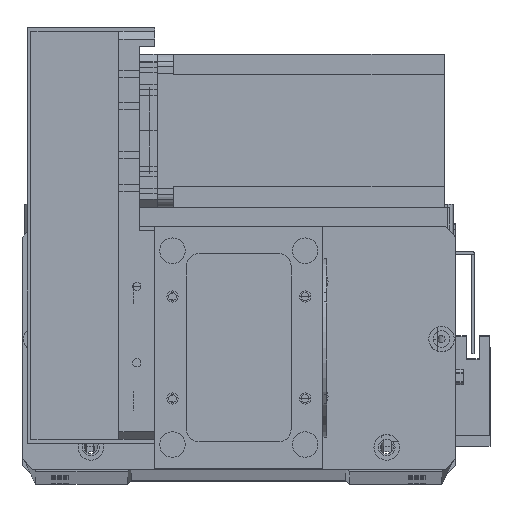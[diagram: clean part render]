
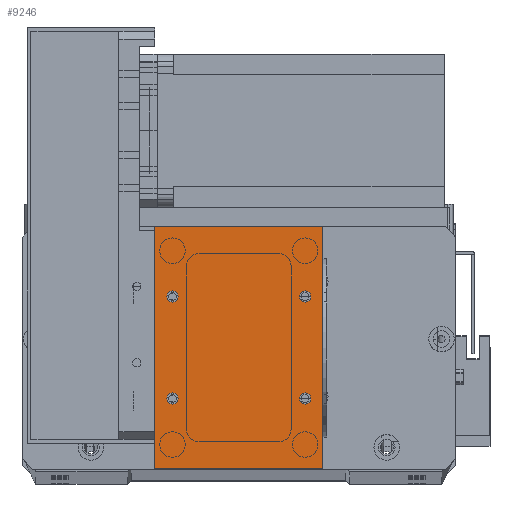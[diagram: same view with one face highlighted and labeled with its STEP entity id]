
A CAD part, top view. The second image highlights one B-rep face of the part: STEP entity #9246.
In plain terms, the highlighted planar face has unit normal (0, 0, 1).
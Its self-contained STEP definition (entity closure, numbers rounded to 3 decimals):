
#257 = EDGE_LOOP ( 'NONE', ( #11207, #22739 ) ) ;
#487 = AXIS2_PLACEMENT_3D ( 'NONE', #15395, #34013, #18059 ) ;
#558 = LINE ( 'NONE', #22063, #28063 ) ;
#1348 = CIRCLE ( 'NONE', #12371, 2.25 ) ;
#1617 = AXIS2_PLACEMENT_3D ( 'NONE', #7700, #26306, #10386 ) ;
#2112 = DIRECTION ( 'NONE',  ( 0., 0., 1. ) ) ;
#3414 = CARTESIAN_POINT ( 'NONE',  ( 0., 0., 2. ) ) ;
#3576 = DIRECTION ( 'NONE',  ( 0., 1., 0. ) ) ;
#3907 = CARTESIAN_POINT ( 'NONE',  ( 59., 67.5, 2. ) ) ;
#4536 = EDGE_CURVE ( 'NONE', #24692, #22620, #24967, .T. ) ;
#4652 = CARTESIAN_POINT ( 'NONE',  ( 4.75, 27.5, 2. ) ) ;
#4894 = DIRECTION ( 'NONE',  ( -1., 0., 0. ) ) ;
#4967 = CARTESIAN_POINT ( 'NONE',  ( 61.25, 67.5, 2. ) ) ;
#5171 = CARTESIAN_POINT ( 'NONE',  ( 0., 0., 2. ) ) ;
#5382 = CIRCLE ( 'NONE', #12772, 2.25 ) ;
#5541 = ORIENTED_EDGE ( 'NONE', *, *, #19989, .T. ) ;
#6228 = FACE_BOUND ( 'NONE', #26638, .T. ) ;
#6588 = DIRECTION ( 'NONE',  ( 1., 0., 0. ) ) ;
#7357 = CARTESIAN_POINT ( 'NONE',  ( 61.25, 27.5, 2. ) ) ;
#7700 = CARTESIAN_POINT ( 'NONE',  ( 59., 27.5, 2. ) ) ;
#7915 = EDGE_CURVE ( 'NONE', #8236, #28253, #12591, .T. ) ;
#7941 = ORIENTED_EDGE ( 'NONE', *, *, #4536, .F. ) ;
#8032 = EDGE_CURVE ( 'NONE', #22620, #24692, #1348, .T. ) ;
#8186 = AXIS2_PLACEMENT_3D ( 'NONE', #9431, #28036, #12090 ) ;
#8236 = VERTEX_POINT ( 'NONE', #16264 ) ;
#8341 = CARTESIAN_POINT ( 'NONE',  ( 7., 67.5, 2. ) ) ;
#8720 = DIRECTION ( 'NONE',  ( 0., 0., 1. ) ) ;
#8765 = DIRECTION ( 'NONE',  ( 0., -1., 0. ) ) ;
#9246 = ADVANCED_FACE ( 'NONE', ( #20410, #27482, #13317, #6228, #14985 ), #23779, .F. ) ;
#9431 = CARTESIAN_POINT ( 'NONE',  ( 59., 27.5, 2. ) ) ;
#10252 = VECTOR ( 'NONE', #8765, 1000. ) ;
#10386 = DIRECTION ( 'NONE',  ( 1., 0., 0. ) ) ;
#10537 = DIRECTION ( 'NONE',  ( -1., 0., 0. ) ) ;
#11024 = DIRECTION ( 'NONE',  ( 1., 0., 0. ) ) ;
#11207 = ORIENTED_EDGE ( 'NONE', *, *, #14830, .F. ) ;
#11563 = EDGE_LOOP ( 'NONE', ( #7941, #24251 ) ) ;
#11627 = DIRECTION ( 'NONE',  ( 0., 0., 1. ) ) ;
#12090 = DIRECTION ( 'NONE',  ( 1., 0., 0. ) ) ;
#12371 = AXIS2_PLACEMENT_3D ( 'NONE', #18033, #2112, #20731 ) ;
#12425 = AXIS2_PLACEMENT_3D ( 'NONE', #8341, #26966, #11024 ) ;
#12571 = EDGE_CURVE ( 'NONE', #19329, #8236, #25232, .T. ) ;
#12591 = LINE ( 'NONE', #14557, #32974 ) ;
#12772 = AXIS2_PLACEMENT_3D ( 'NONE', #27561, #11627, #30241 ) ;
#13191 = VECTOR ( 'NONE', #4894, 1000. ) ;
#13317 = FACE_BOUND ( 'NONE', #257, .T. ) ;
#14003 = CARTESIAN_POINT ( 'NONE',  ( 0., 95., 2. ) ) ;
#14173 = CIRCLE ( 'NONE', #487, 2.25 ) ;
#14557 = CARTESIAN_POINT ( 'NONE',  ( 0., 0., 2. ) ) ;
#14740 = ORIENTED_EDGE ( 'NONE', *, *, #31172, .F. ) ;
#14777 = VERTEX_POINT ( 'NONE', #4652 ) ;
#14830 = EDGE_CURVE ( 'NONE', #18411, #34318, #17213, .T. ) ;
#14985 = FACE_OUTER_BOUND ( 'NONE', #30142, .T. ) ;
#15395 = CARTESIAN_POINT ( 'NONE',  ( 7., 27.5, 2. ) ) ;
#15424 = VERTEX_POINT ( 'NONE', #33023 ) ;
#15470 = CARTESIAN_POINT ( 'NONE',  ( 0., 95., 2. ) ) ;
#16173 = CARTESIAN_POINT ( 'NONE',  ( 4.75, 67.5, 2. ) ) ;
#16264 = CARTESIAN_POINT ( 'NONE',  ( 0., 0., 2. ) ) ;
#16955 = ORIENTED_EDGE ( 'NONE', *, *, #7915, .T. ) ;
#17210 = VERTEX_POINT ( 'NONE', #17318 ) ;
#17213 = CIRCLE ( 'NONE', #1617, 2.25 ) ;
#17318 = CARTESIAN_POINT ( 'NONE',  ( 9.25, 27.5, 2. ) ) ;
#17473 = DIRECTION ( 'NONE',  ( 1., 0., 0. ) ) ;
#17769 = CIRCLE ( 'NONE', #31223, 2.25 ) ;
#17878 = VERTEX_POINT ( 'NONE', #33574 ) ;
#18033 = CARTESIAN_POINT ( 'NONE',  ( 7., 67.5, 2. ) ) ;
#18059 = DIRECTION ( 'NONE',  ( 1., 0., 0. ) ) ;
#18075 = ORIENTED_EDGE ( 'NONE', *, *, #30186, .F. ) ;
#18120 = CARTESIAN_POINT ( 'NONE',  ( 56.75, 27.5, 2. ) ) ;
#18411 = VERTEX_POINT ( 'NONE', #7357 ) ;
#18887 = EDGE_CURVE ( 'NONE', #34318, #18411, #24507, .T. ) ;
#19329 = VERTEX_POINT ( 'NONE', #14003 ) ;
#19989 = EDGE_CURVE ( 'NONE', #15424, #19329, #20290, .T. ) ;
#20269 = EDGE_CURVE ( 'NONE', #14777, #17210, #17769, .T. ) ;
#20290 = LINE ( 'NONE', #15470, #13191 ) ;
#20410 = FACE_BOUND ( 'NONE', #11563, .T. ) ;
#20731 = DIRECTION ( 'NONE',  ( 1., 0., 0. ) ) ;
#21700 = ORIENTED_EDGE ( 'NONE', *, *, #23231, .T. ) ;
#22063 = CARTESIAN_POINT ( 'NONE',  ( 66., 0., 2. ) ) ;
#22449 = CARTESIAN_POINT ( 'NONE',  ( 66., 0., 2. ) ) ;
#22519 = DIRECTION ( 'NONE',  ( 0., 0., 1. ) ) ;
#22620 = VERTEX_POINT ( 'NONE', #16173 ) ;
#22739 = ORIENTED_EDGE ( 'NONE', *, *, #18887, .F. ) ;
#23231 = EDGE_CURVE ( 'NONE', #28253, #15424, #558, .T. ) ;
#23779 = PLANE ( 'NONE',  #25096 ) ;
#23964 = AXIS2_PLACEMENT_3D ( 'NONE', #3907, #22519, #6588 ) ;
#24251 = ORIENTED_EDGE ( 'NONE', *, *, #8032, .F. ) ;
#24507 = CIRCLE ( 'NONE', #8186, 2.25 ) ;
#24652 = CARTESIAN_POINT ( 'NONE',  ( 7., 27.5, 2. ) ) ;
#24692 = VERTEX_POINT ( 'NONE', #28172 ) ;
#24835 = VERTEX_POINT ( 'NONE', #4967 ) ;
#24967 = CIRCLE ( 'NONE', #12425, 2.25 ) ;
#25096 = AXIS2_PLACEMENT_3D ( 'NONE', #5171, #26485, #10537 ) ;
#25199 = EDGE_CURVE ( 'NONE', #24835, #17878, #27920, .T. ) ;
#25232 = LINE ( 'NONE', #3414, #10252 ) ;
#26306 = DIRECTION ( 'NONE',  ( 0., 0., 1. ) ) ;
#26485 = DIRECTION ( 'NONE',  ( 0., 0., -1. ) ) ;
#26638 = EDGE_LOOP ( 'NONE', ( #18075, #33772 ) ) ;
#26966 = DIRECTION ( 'NONE',  ( 0., 0., 1. ) ) ;
#27347 = DIRECTION ( 'NONE',  ( 1., 0., 0. ) ) ;
#27482 = FACE_BOUND ( 'NONE', #31851, .T. ) ;
#27561 = CARTESIAN_POINT ( 'NONE',  ( 59., 67.5, 2. ) ) ;
#27920 = CIRCLE ( 'NONE', #23964, 2.25 ) ;
#28036 = DIRECTION ( 'NONE',  ( 0., 0., 1. ) ) ;
#28063 = VECTOR ( 'NONE', #3576, 1000. ) ;
#28172 = CARTESIAN_POINT ( 'NONE',  ( 9.25, 67.5, 2. ) ) ;
#28253 = VERTEX_POINT ( 'NONE', #22449 ) ;
#30142 = EDGE_LOOP ( 'NONE', ( #30563, #16955, #21700, #5541 ) ) ;
#30186 = EDGE_CURVE ( 'NONE', #17210, #14777, #14173, .T. ) ;
#30241 = DIRECTION ( 'NONE',  ( 1., 0., 0. ) ) ;
#30563 = ORIENTED_EDGE ( 'NONE', *, *, #12571, .T. ) ;
#31172 = EDGE_CURVE ( 'NONE', #17878, #24835, #5382, .T. ) ;
#31223 = AXIS2_PLACEMENT_3D ( 'NONE', #24652, #8720, #27347 ) ;
#31795 = ORIENTED_EDGE ( 'NONE', *, *, #25199, .F. ) ;
#31851 = EDGE_LOOP ( 'NONE', ( #31795, #14740 ) ) ;
#32974 = VECTOR ( 'NONE', #17473, 1000. ) ;
#33023 = CARTESIAN_POINT ( 'NONE',  ( 66., 95., 2. ) ) ;
#33574 = CARTESIAN_POINT ( 'NONE',  ( 56.75, 67.5, 2. ) ) ;
#33772 = ORIENTED_EDGE ( 'NONE', *, *, #20269, .F. ) ;
#34013 = DIRECTION ( 'NONE',  ( 0., 0., 1. ) ) ;
#34318 = VERTEX_POINT ( 'NONE', #18120 ) ;
